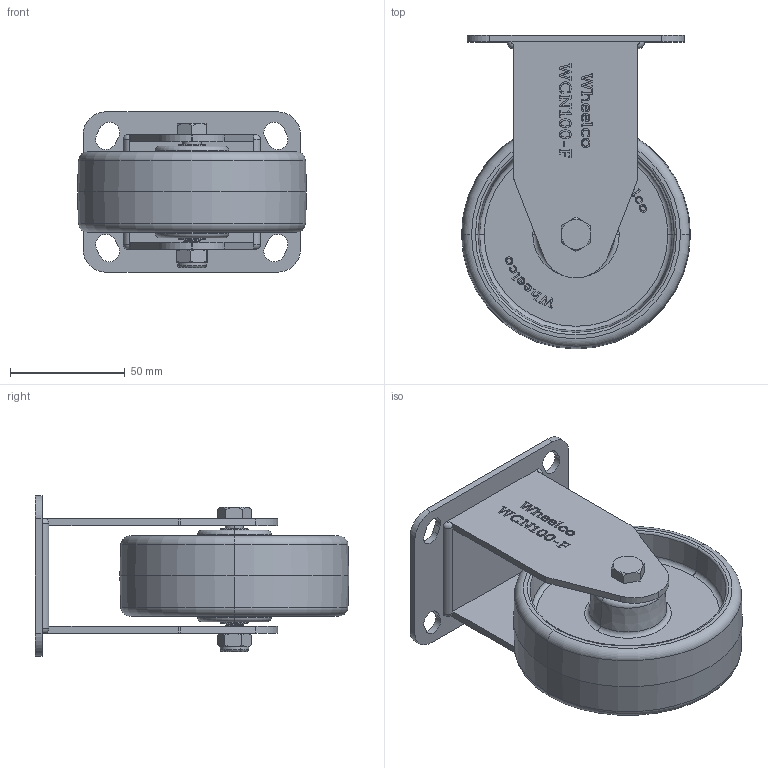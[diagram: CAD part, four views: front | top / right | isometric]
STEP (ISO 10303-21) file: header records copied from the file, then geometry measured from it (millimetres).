
FILE_DESCRIPTION (( 'STEP AP214' ), '1' );
FILE_NAME ('WCN100-F.step', '2024-01-12T00:41:37', ( '' ), ( '' ), 'SwSTEP 2.0', 'SolidWorks 2022', '' );
FILE_SCHEMA (( 'AUTOMOTIVE_DESIGN' ));
Length unit declared in the file: millimetre
Products named in the file (6): WCN100-F; M8x55; WCN100; M8Nyloc; SP12-8-41
Assembly tree (5 placements, depth 2):
  WCN100-F
    WCN100-F
    M8x55
    M8Nyloc
    SP12-8-41
    WCN100
Bounding box: 100 x 137 x 70 mm (x, y, z)
Volume: 201480.7 mm3; surface area: 75688.9 mm2
Topology: 5 solids, 5 shells, 729 faces, 1967 edges, 1297 vertices
Faces by surface type: plane 371, bspline 190, cylinder 104, cone 32, torus 30, sphere 2
Entity records: 40559 total; most frequent: CARTESIAN_POINT 20870, ORIENTED_EDGE 3934, DIRECTION 2718, EDGE_CURVE 1967, VERTEX_POINT 1297, LINE 1242, VECTOR 1242, EDGE_LOOP 796
